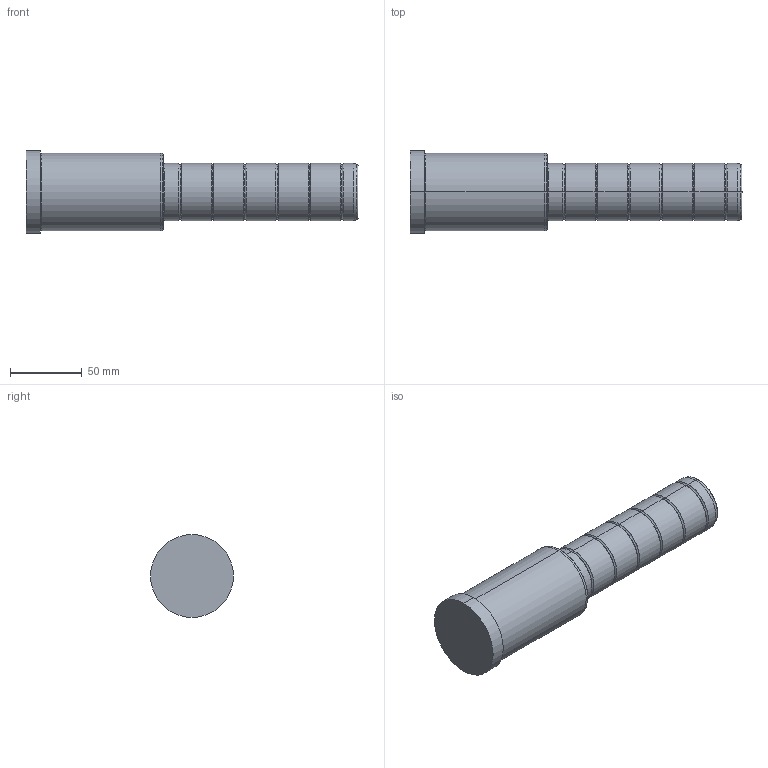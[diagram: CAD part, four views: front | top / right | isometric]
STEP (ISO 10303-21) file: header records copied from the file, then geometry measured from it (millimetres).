
FILE_DESCRIPTION( ( 'STEP AP203' ), '1' );
FILE_NAME( 'C:/Projects/D02 - 40x96x136.step', '2003-01-04T14:10:48', ( ' ' ), ( ' ' ), 'XStep 1.0', ' ', ' ' );
FILE_SCHEMA( ( 'CONFIG_CONTROL_DESIGN' ) );
Length unit declared in the file: metre
Products named in the file (1): 1
Bounding box: 232 x 58 x 58 mm (x, y, z)
Volume: 393086.7 mm3; surface area: 39382.2 mm2
Topology: 1 solids, 1 shells, 60 faces, 118 edges, 64 vertices
Faces by surface type: bspline 34, revolution 26
Entity records: 1919 total; most frequent: CARTESIAN_POINT 817, ORIENTED_EDGE 236, DIRECTION 182, EDGE_CURVE 118, AXIS2_PLACEMENT_3D 65, EDGE_LOOP 64, VERTEX_POINT 64, CIRCLE 64
